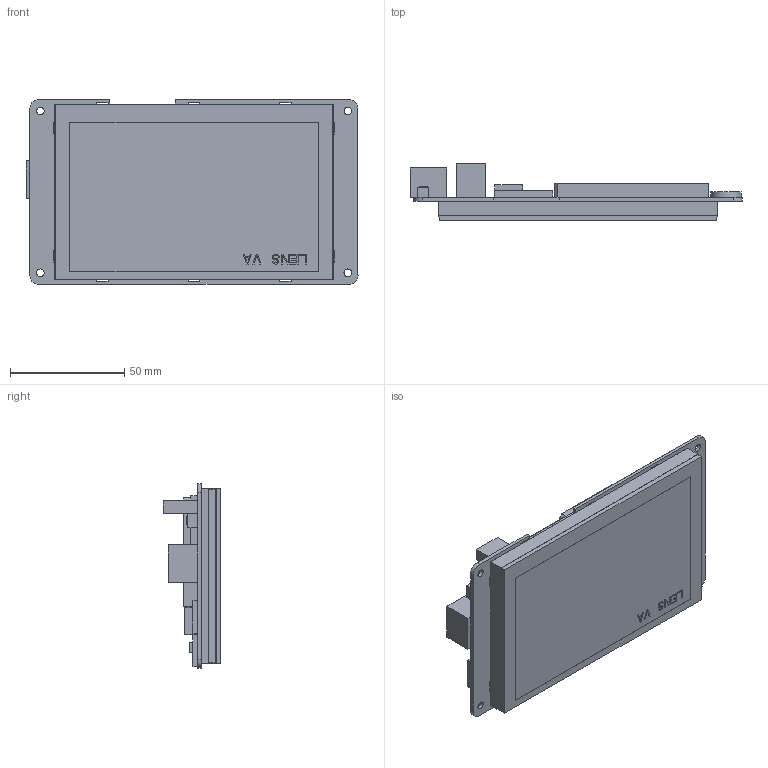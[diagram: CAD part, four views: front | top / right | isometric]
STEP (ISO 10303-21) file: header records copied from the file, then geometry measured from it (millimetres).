
FILE_DESCRIPTION((''),'2;1');
FILE_NAME('DMG80480T050-32WTC_ASM','2023-05-16T',('Administrator'),(''),'PRO/ENGINEER BY PARAMETRIC TECHNOLOGY CORPORATION, 2014320','PRO/ENGINEER BY PARAMETRIC TECHNOLOGY CORPORATION, 2014320','');
FILE_SCHEMA(('CONFIG_CONTROL_DESIGN','SHAPE_APPEARANCE_LAYERS_GROUPS'));
Length unit declared in the file: millimetre
Products named in the file (5): TK050002; LI80480T050HA4001; CTP; PCB; DMG80480T050-32WTC_ASM
Assembly tree (4 placements, depth 2):
  DMG80480T050-32WTC_ASM
    TK050002
    LI80480T050HA4001
    CTP
    PCB
Bounding box: 145.11 x 25.13 x 80.77 mm (x, y, z)
Volume: 93100 mm3; surface area: 75555.2 mm2
Topology: 4 solids, 4 shells, 290 faces, 769 edges, 512 vertices
Faces by surface type: plane 274, cylinder 16
Entity records: 9470 total; most frequent: CARTESIAN_POINT 1580, ORIENTED_EDGE 1538, DIRECTION 1399, EDGE_CURVE 769, VECTOR 737, LINE 737, VERTEX_POINT 512, EDGE_LOOP 345
